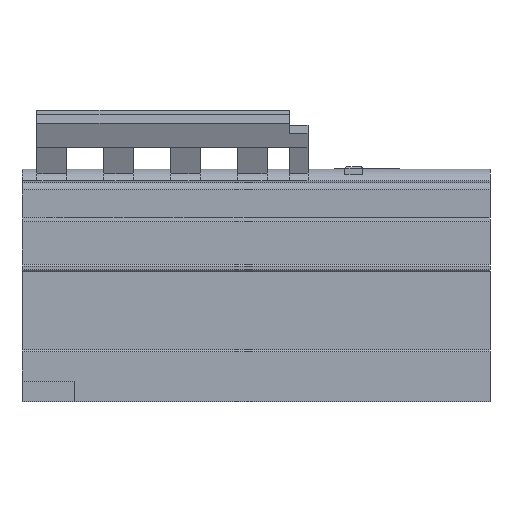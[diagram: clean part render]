
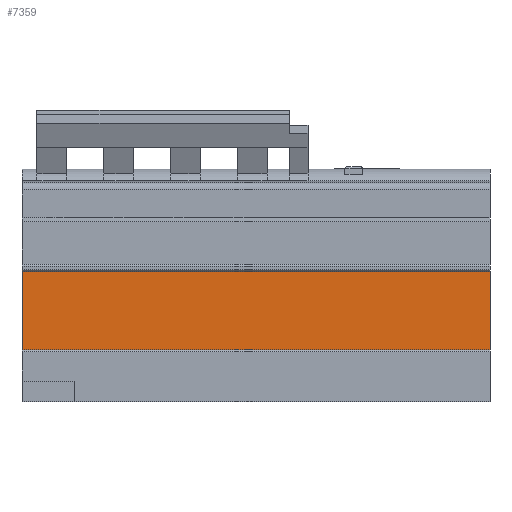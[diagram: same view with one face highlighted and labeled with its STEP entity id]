
A CAD part, front view. The second image highlights one B-rep face of the part: STEP entity #7359.
In plain terms, the highlighted planar face has unit normal (0, -1, 0).
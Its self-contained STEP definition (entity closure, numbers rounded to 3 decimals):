
#245=LINE('',#10598,#893);
#493=LINE('',#12284,#1141);
#565=LINE('',#12480,#1213);
#566=LINE('',#12482,#1214);
#893=VECTOR('',#8452,10.);
#1141=VECTOR('',#9218,10.);
#1213=VECTOR('',#9438,10.);
#1214=VECTOR('',#9441,10.);
#1684=PLANE('',#7974);
#2198=FACE_OUTER_BOUND('',#2712,.T.);
#2712=EDGE_LOOP('',(#6041,#6042,#6043,#6044));
#3238=VERTEX_POINT('',#10595);
#3239=VERTEX_POINT('',#10597);
#3555=VERTEX_POINT('',#12281);
#3556=VERTEX_POINT('',#12283);
#3951=EDGE_CURVE('',#3238,#3239,#245,.T.);
#4386=EDGE_CURVE('',#3556,#3555,#493,.T.);
#4484=EDGE_CURVE('',#3555,#3239,#565,.T.);
#4485=EDGE_CURVE('',#3556,#3238,#566,.T.);
#6041=ORIENTED_EDGE('',*,*,#4386,.T.);
#6042=ORIENTED_EDGE('',*,*,#4484,.T.);
#6043=ORIENTED_EDGE('',*,*,#3951,.F.);
#6044=ORIENTED_EDGE('',*,*,#4485,.F.);
#7359=ADVANCED_FACE('',(#2198),#1684,.T.);
#7974=AXIS2_PLACEMENT_3D('',#12481,#9439,#9440);
#8452=DIRECTION('',(0.,0.,-1.));
#9218=DIRECTION('',(0.,0.,-1.));
#9438=DIRECTION('',(1.,0.,0.));
#9439=DIRECTION('center_axis',(0.,-1.,0.));
#9440=DIRECTION('ref_axis',(0.,0.,-1.));
#9441=DIRECTION('',(1.,0.,0.));
#10595=CARTESIAN_POINT('',(126.,-9.653,-21.84));
#10597=CARTESIAN_POINT('',(126.,-9.653,-42.84));
#10598=CARTESIAN_POINT('',(126.,-9.653,-21.84));
#12281=CARTESIAN_POINT('',(0.,-9.653,-42.84));
#12283=CARTESIAN_POINT('',(0.,-9.653,-21.84));
#12284=CARTESIAN_POINT('',(0.,-9.653,-21.84));
#12480=CARTESIAN_POINT('',(0.,-9.653,-42.84));
#12481=CARTESIAN_POINT('Origin',(0.,-9.653,-21.84));
#12482=CARTESIAN_POINT('',(0.,-9.653,-21.84));
